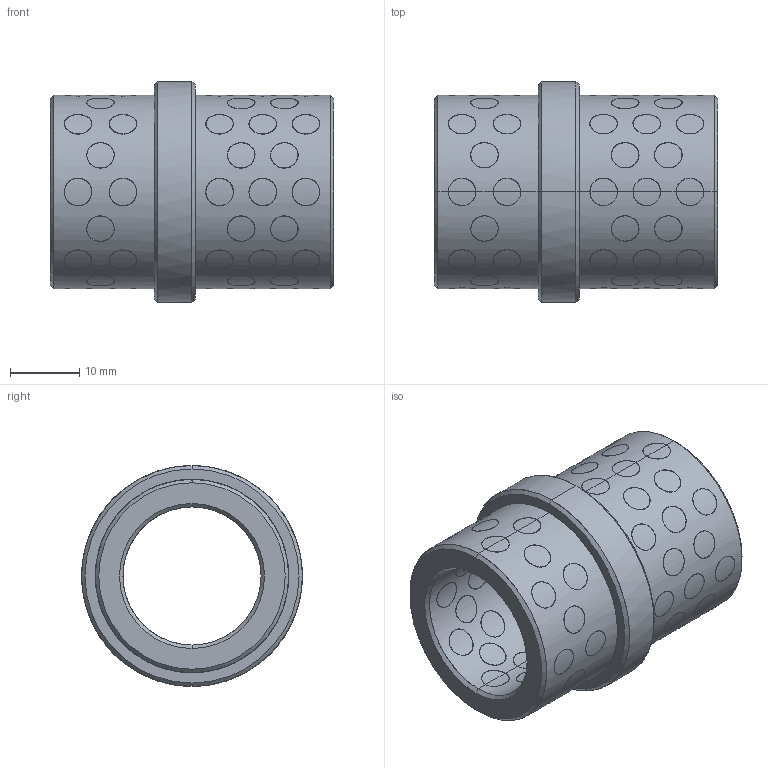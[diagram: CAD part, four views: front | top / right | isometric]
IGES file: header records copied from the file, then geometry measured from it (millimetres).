
Start section: START RECORD GO HERE.
Global section: file name: G4022026.igs; native system: DASSAULT SYSTEMES CATIA V5 R20 - www.3ds.com; preprocessor: CATIA Version 5 Release 20 ; author: r.borello; organization: CFTORINO; date: 20190624.144005; units: millimetre
Bounding box: 41 x 32 x 32 mm (x, y, z)
Surface area: 13489.8 mm2 (no closed solid volume)
Topology: 0 solids, 0 shells, 428 faces, 1872 edges, 1872 vertices
Faces by surface type: revolution 424, plane 4
